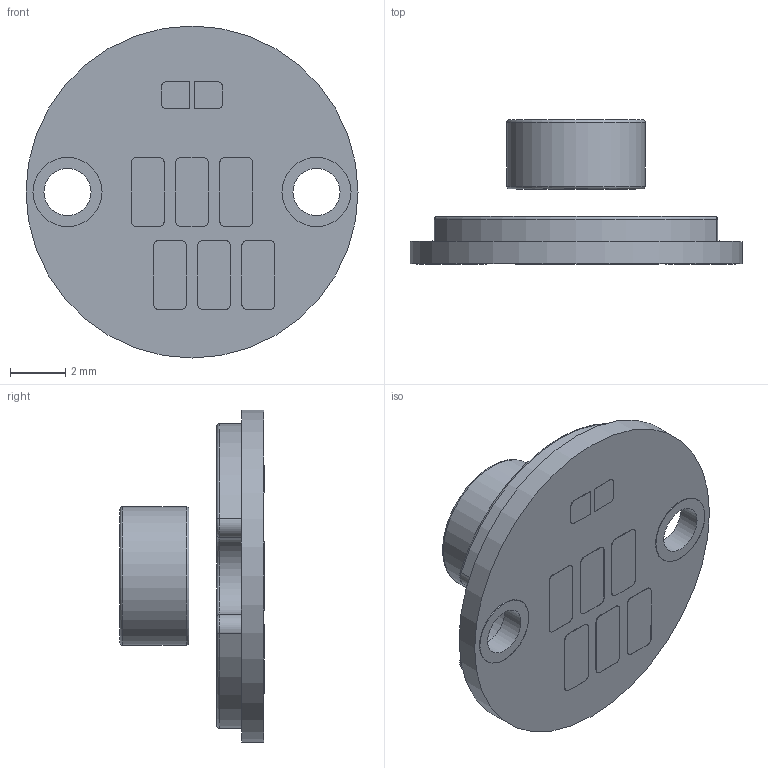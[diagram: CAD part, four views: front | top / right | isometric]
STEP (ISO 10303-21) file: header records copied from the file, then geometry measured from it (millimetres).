
FILE_DESCRIPTION(/* description */ ('Unknown'),/* implementation_level */ '2;1');
FILE_NAME(/* name */ 'P1514-1888',/* time_stamp */ '2026-07-02T09:35:57+02:00',/* author */ ('Unknown'),/* organization */ ('Unknown'),/* preprocessor_version */ 'ST-DEVELOPER v20',/* originating_system */ 'Solid Edge',/* authorisation */ 'Unknown');
FILE_SCHEMA (('AUTOMOTIVE_DESIGN {1 0 10303 214 3 1 1}'));
Length unit declared in the file: millimetre
Products named in the file (3): P1514-1888; P1514-1888_01; P1514-1888_02
Assembly tree (2 placements, depth 2):
  P1514-1888
    P1514-1888_01
    P1514-1888_02
Bounding box: 12 x 5.22 x 12 mm (x, y, z)
Volume: 211.1 mm3; surface area: 368.3 mm2
Topology: 2 solids, 2 shells, 111 faces, 270 edges, 176 vertices
Faces by surface type: plane 53, cylinder 48, torus 10
Full cylindrical faces by diameter (mm): 1.7 x2, 2.5 x4, 5 x1, 12 x1
Entity records: 4031 total; most frequent: DIRECTION 596, CARTESIAN_POINT 546, ORIENTED_EDGE 516, EDGE_CURVE 258, AXIS2_PLACEMENT_3D 224, VERTEX_POINT 174, LINE 148, VECTOR 148
